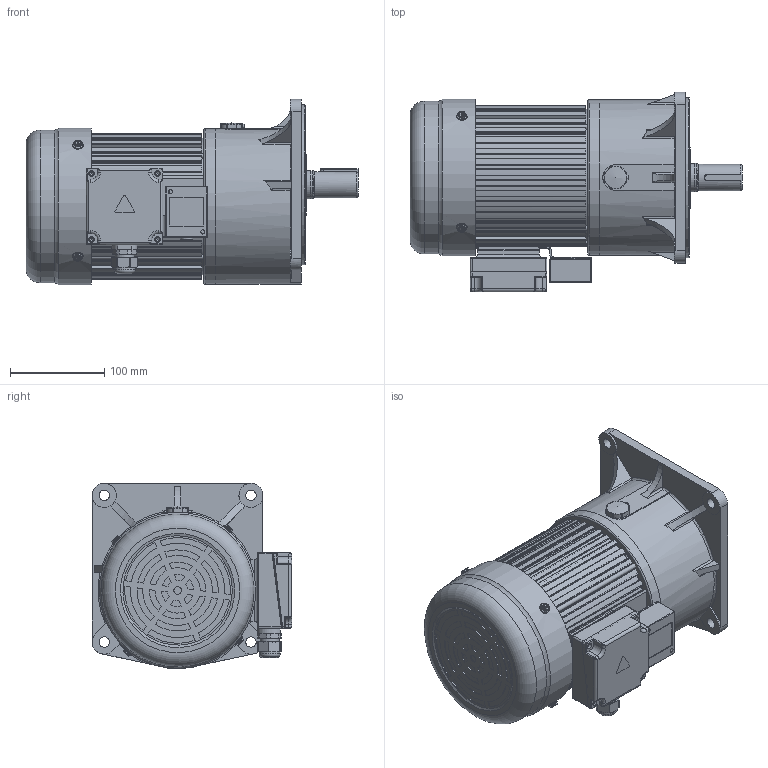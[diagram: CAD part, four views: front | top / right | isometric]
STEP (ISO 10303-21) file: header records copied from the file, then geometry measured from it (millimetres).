
FILE_DESCRIPTION(/* description */ (''),/* implementation_level */ '2;1');
FILE_NAME(/* name */ 'CV28-400-3～200外形多速比带刹车.stp',/* time_stamp */ '2025-05-02T10:19:59+08:00',/* author */ (''),/* organization */ (''),/* preprocessor_version */ 'ST-DEVELOPER v18.102',/* originating_system */ 'SIEMENS PLM Software NX 2027',/* authorisation */ '');
FILE_SCHEMA (('AP203_CONFIGURATION_CONTROLLED_3D_DESIGN_OF_MECHANICAL_PARTS_AND_ASSEMBLIES_MIM_LF { 1 0 10303 403 2 1 2}'));
Length unit declared in the file: millimetre
Products named in the file (1): CV28-400-3～200外形多速比带刹车_
objects
Bounding box: 352 x 211.58 x 196.45 mm (x, y, z)
Volume: 5991161 mm3; surface area: 465076.9 mm2
Topology: 23 solids, 23 shells, 3372 faces, 8882 edges, 5729 vertices
Faces by surface type: plane 1933, cylinder 895, cone 256, torus 112, extrusion 96, bspline 51, revolution 20, sphere 9
Full cylindrical faces by diameter (mm): 1 x1, 1.8 x1, 3 x1, 3.3 x4, 3.5 x1, 4 x1, 4.2 x8, 4.5 x2, 5 x4, 5.795 x5, 6.4 x4, 7 x4, 8 x1, 10 x5, 11 x14, 12.5 x1, 13 x1, 16 x3, 16.678 x1, 17 x1, 19.5 x1, 20 x5, 21 x1, 22.5 x1, 25.5 x2, 27.6 x1, 28 x1, 30 x2, 45 x1, 58 x1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
Entity records: 112579 total; most frequent: CARTESIAN_POINT 31684, ORIENTED_EDGE 17280, DIRECTION 15658, EDGE_CURVE 8640, VERTEX_POINT 5670, AXIS2_PLACEMENT_3D 5309, VECTOR 5020, LINE 4924
